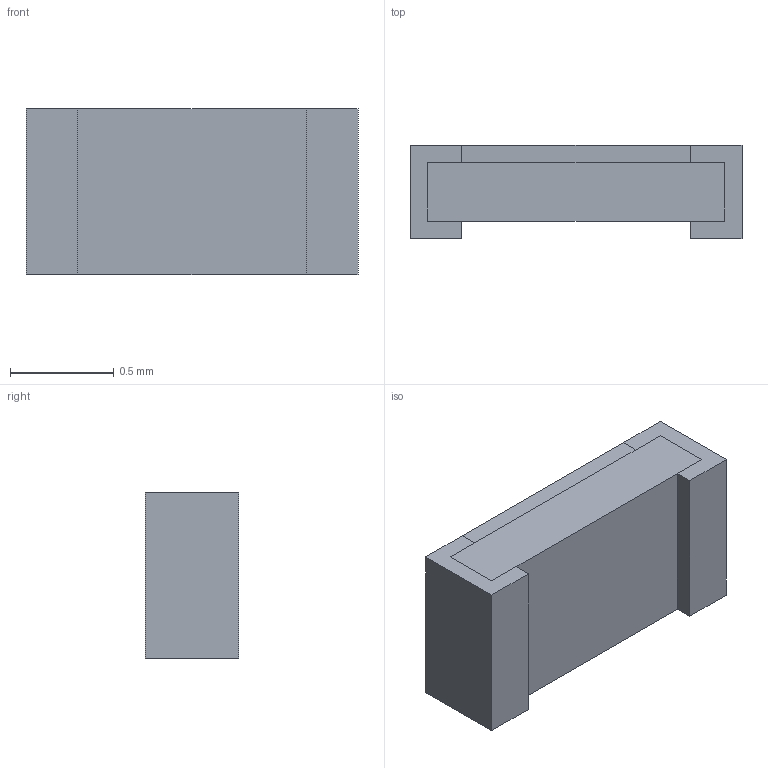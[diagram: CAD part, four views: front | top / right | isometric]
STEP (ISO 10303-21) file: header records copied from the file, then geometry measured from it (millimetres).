
FILE_DESCRIPTION(('FreeCAD Model'),'2;1');
FILE_NAME('Open CASCADE Shape Model','2022-02-08T17:22:49',('Author'),( ''),'Open CASCADE STEP processor 7.5','FreeCAD','Unknown');
FILE_SCHEMA(('AUTOMOTIVE_DESIGN { 1 0 10303 214 1 1 1 1 }'));
Length unit declared in the file: millimetre
Products named in the file (1): Pad002
Bounding box: 1.6 x 0.45 x 0.8 mm (x, y, z)
Volume: 0.5 mm3; surface area: 4.7 mm2
Topology: 1 solids, 1 shells, 18 faces, 48 edges, 32 vertices
Faces by surface type: plane 18
Entity records: 1320 total; most frequent: CARTESIAN_POINT 195, DIRECTION 182, LINE 144, VECTOR 144, ORIENTED_EDGE 96, PCURVE 96, DEFINITIONAL_REPRESENTATION 96, EDGE_CURVE 48
